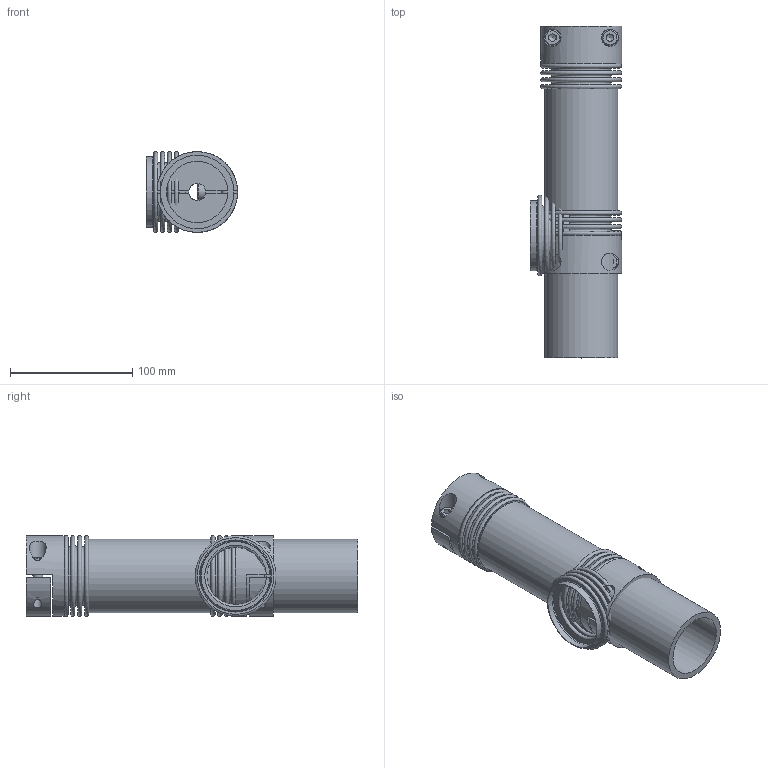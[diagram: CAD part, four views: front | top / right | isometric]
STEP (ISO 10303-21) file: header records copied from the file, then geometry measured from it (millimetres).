
FILE_DESCRIPTION( ( 'Unknown' ), '1' );
FILE_NAME( 'K:/Konstruktion/DRB/DRB60.stp', 'Unknown', ( 'Unknown' ), ( 'Unknown' ), 'XStep 1.0', 'Unknown', ' ' );
FILE_SCHEMA( ( 'automotive_design' ) );
Length unit declared in the file: millimetre
Products named in the file (6): Assem1; KN4H-60; BK60_Standard_0; Socket Head Cap Screw_DIN_DIN 912 M8 x 25 --- 25N_2; R60
Bounding box: 74.52 x 271.2 x 66 mm (x, y, z)
Volume: 473496.3 mm3; surface area: 235990.1 mm2
Topology: 16 solids, 16 shells, 290 faces, 576 edges, 374 vertices
Faces by surface type: plane 166, torus 58, cylinder 56, cone 10
Full cylindrical faces by diameter (mm): 6.647 x6, 8 x5, 8.5 x6, 13 x5, 14 x9, 50 x2, 56.3 x6, 57.3 x6, 60 x2, 66 x3
Entity records: 2665 total; most frequent: CARTESIAN_POINT 619, DIRECTION 378, ORIENTED_EDGE 234, AXIS2_PLACEMENT_3D 169, EDGE_LOOP 152, FACE_OUTER_BOUND 118, EDGE_CURVE 117, VERTEX_POINT 98
